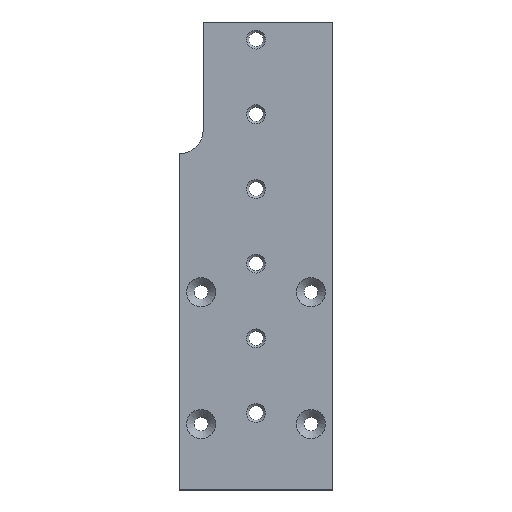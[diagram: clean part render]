
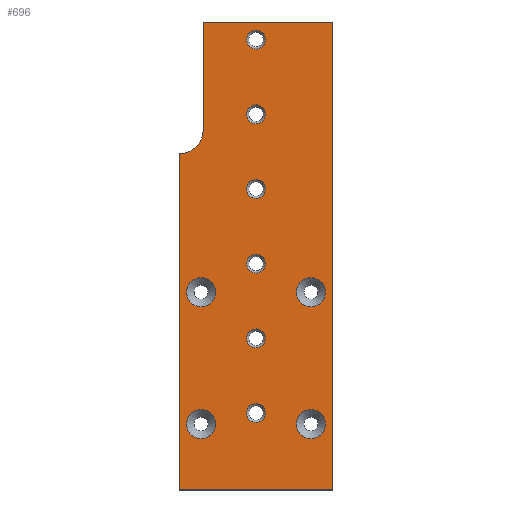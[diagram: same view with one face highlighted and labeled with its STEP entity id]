
A CAD part, top view. The second image highlights one B-rep face of the part: STEP entity #696.
In plain terms, the highlighted planar face has unit normal (0, 0, 1).
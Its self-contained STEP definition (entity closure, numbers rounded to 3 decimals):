
#31=CIRCLE('',#721,5.5);
#43=CIRCLE('',#739,3.3);
#45=CIRCLE('',#743,3.3);
#47=CIRCLE('',#747,3.3);
#49=CIRCLE('',#751,2.15);
#50=CIRCLE('',#752,2.15);
#51=CIRCLE('',#753,2.15);
#52=CIRCLE('',#754,2.15);
#53=CIRCLE('',#755,2.15);
#54=CIRCLE('',#756,2.15);
#55=CIRCLE('',#757,3.3);
#137=ORIENTED_EDGE('',*,*,#219,.T.);
#138=ORIENTED_EDGE('',*,*,#220,.T.);
#139=ORIENTED_EDGE('',*,*,#221,.T.);
#140=ORIENTED_EDGE('',*,*,#222,.T.);
#141=ORIENTED_EDGE('',*,*,#223,.T.);
#142=ORIENTED_EDGE('',*,*,#224,.T.);
#143=ORIENTED_EDGE('',*,*,#225,.F.);
#144=ORIENTED_EDGE('',*,*,#215,.F.);
#145=ORIENTED_EDGE('',*,*,#213,.F.);
#146=ORIENTED_EDGE('',*,*,#217,.F.);
#147=ORIENTED_EDGE('',*,*,#180,.T.);
#148=ORIENTED_EDGE('',*,*,#185,.T.);
#149=ORIENTED_EDGE('',*,*,#189,.T.);
#150=ORIENTED_EDGE('',*,*,#211,.T.);
#151=ORIENTED_EDGE('',*,*,#193,.T.);
#152=ORIENTED_EDGE('',*,*,#197,.F.);
#180=EDGE_CURVE('',#234,#233,#278,.T.);
#185=EDGE_CURVE('',#233,#238,#283,.T.);
#189=EDGE_CURVE('',#238,#241,#287,.T.);
#193=EDGE_CURVE('',#245,#243,#291,.T.);
#197=EDGE_CURVE('',#234,#243,#31,.T.);
#211=EDGE_CURVE('',#241,#245,#297,.T.);
#213=EDGE_CURVE('',#258,#258,#43,.T.);
#215=EDGE_CURVE('',#260,#260,#45,.T.);
#217=EDGE_CURVE('',#262,#262,#47,.T.);
#219=EDGE_CURVE('',#264,#264,#49,.T.);
#220=EDGE_CURVE('',#265,#265,#50,.T.);
#221=EDGE_CURVE('',#266,#266,#51,.T.);
#222=EDGE_CURVE('',#267,#267,#52,.T.);
#223=EDGE_CURVE('',#268,#268,#53,.T.);
#224=EDGE_CURVE('',#269,#269,#54,.T.);
#225=EDGE_CURVE('',#270,#270,#55,.T.);
#233=VERTEX_POINT('',#928);
#234=VERTEX_POINT('',#930);
#238=VERTEX_POINT('',#939);
#241=VERTEX_POINT('',#947);
#243=VERTEX_POINT('',#954);
#245=VERTEX_POINT('',#957);
#258=VERTEX_POINT('',#997);
#260=VERTEX_POINT('',#1003);
#262=VERTEX_POINT('',#1009);
#264=VERTEX_POINT('',#1015);
#265=VERTEX_POINT('',#1017);
#266=VERTEX_POINT('',#1019);
#267=VERTEX_POINT('',#1021);
#268=VERTEX_POINT('',#1023);
#269=VERTEX_POINT('',#1025);
#270=VERTEX_POINT('',#1027);
#278=LINE('',#929,#299);
#283=LINE('',#940,#304);
#287=LINE('',#948,#308);
#291=LINE('',#956,#312);
#297=LINE('',#991,#318);
#299=VECTOR('',#782,1000.);
#304=VECTOR('',#789,1000.);
#308=VECTOR('',#795,1000.);
#312=VECTOR('',#801,1000.);
#318=VECTOR('',#841,1000.);
#352=EDGE_LOOP('',(#137));
#353=EDGE_LOOP('',(#138));
#354=EDGE_LOOP('',(#139));
#355=EDGE_LOOP('',(#140));
#356=EDGE_LOOP('',(#141));
#357=EDGE_LOOP('',(#142));
#358=EDGE_LOOP('',(#143));
#359=EDGE_LOOP('',(#144));
#360=EDGE_LOOP('',(#145));
#361=EDGE_LOOP('',(#146));
#362=EDGE_LOOP('',(#147,#148,#149,#150,#151,#152));
#422=FACE_BOUND('',#352,.T.);
#423=FACE_BOUND('',#353,.T.);
#424=FACE_BOUND('',#354,.T.);
#425=FACE_BOUND('',#355,.T.);
#426=FACE_BOUND('',#356,.T.);
#427=FACE_BOUND('',#357,.T.);
#428=FACE_BOUND('',#358,.T.);
#429=FACE_BOUND('',#359,.T.);
#430=FACE_BOUND('',#360,.T.);
#431=FACE_BOUND('',#361,.T.);
#432=FACE_BOUND('',#362,.T.);
#467=PLANE('',#750);
#696=ADVANCED_FACE('',(#422,#423,#424,#425,#426,#427,#428,#429,#430,#431,
#432),#467,.T.);
#721=AXIS2_PLACEMENT_3D('',#963,#808,#809);
#739=AXIS2_PLACEMENT_3D('',#996,#848,#849);
#743=AXIS2_PLACEMENT_3D('',#1002,#856,#857);
#747=AXIS2_PLACEMENT_3D('',#1008,#864,#865);
#750=AXIS2_PLACEMENT_3D('',#1013,#870,#871);
#751=AXIS2_PLACEMENT_3D('',#1014,#872,#873);
#752=AXIS2_PLACEMENT_3D('',#1016,#874,#875);
#753=AXIS2_PLACEMENT_3D('',#1018,#876,#877);
#754=AXIS2_PLACEMENT_3D('',#1020,#878,#879);
#755=AXIS2_PLACEMENT_3D('',#1022,#880,#881);
#756=AXIS2_PLACEMENT_3D('',#1024,#882,#883);
#757=AXIS2_PLACEMENT_3D('',#1026,#884,#885);
#782=DIRECTION('',(0.,-1.,0.));
#789=DIRECTION('',(1.,0.,0.));
#795=DIRECTION('',(0.,1.,0.));
#801=DIRECTION('',(0.,-1.,0.));
#808=DIRECTION('',(0.,0.,1.));
#809=DIRECTION('',(0.707,-0.707,0.));
#841=DIRECTION('',(-1.,0.,0.));
#848=DIRECTION('',(0.,0.,1.));
#849=DIRECTION('',(-1.,0.,0.));
#856=DIRECTION('',(0.,0.,1.));
#857=DIRECTION('',(-1.,0.,0.));
#864=DIRECTION('',(0.,0.,1.));
#865=DIRECTION('',(-1.,0.,0.));
#870=DIRECTION('',(0.,0.,1.));
#871=DIRECTION('',(1.,0.,0.));
#872=DIRECTION('',(0.,0.,-1.));
#873=DIRECTION('',(0.,-1.,0.));
#874=DIRECTION('',(0.,0.,-1.));
#875=DIRECTION('',(0.,-1.,0.));
#876=DIRECTION('',(0.,0.,-1.));
#877=DIRECTION('',(0.,-1.,0.));
#878=DIRECTION('',(0.,0.,-1.));
#879=DIRECTION('',(0.,-1.,0.));
#880=DIRECTION('',(0.,0.,-1.));
#881=DIRECTION('',(0.,-1.,0.));
#882=DIRECTION('',(0.,0.,-1.));
#883=DIRECTION('',(0.,-1.,0.));
#884=DIRECTION('',(0.,0.,1.));
#885=DIRECTION('',(-1.,0.,0.));
#928=CARTESIAN_POINT('',(512.586,-80.642,4.));
#929=CARTESIAN_POINT('',(512.586,-4.142,4.));
#930=CARTESIAN_POINT('',(512.586,-4.142,4.));
#939=CARTESIAN_POINT('',(547.586,-80.642,4.));
#940=CARTESIAN_POINT('',(512.586,-80.642,4.));
#947=CARTESIAN_POINT('',(547.586,25.858,4.));
#948=CARTESIAN_POINT('',(547.586,-80.642,4.));
#954=CARTESIAN_POINT('',(518.086,1.358,4.));
#956=CARTESIAN_POINT('',(518.086,-4.142,4.));
#957=CARTESIAN_POINT('',(518.086,25.858,4.));
#963=CARTESIAN_POINT('',(512.586,1.358,4.));
#991=CARTESIAN_POINT('',(518.086,25.858,4.));
#996=CARTESIAN_POINT('',(517.586,-35.642,4.));
#997=CARTESIAN_POINT('',(514.286,-35.642,4.));
#1002=CARTESIAN_POINT('',(517.586,-65.642,4.));
#1003=CARTESIAN_POINT('',(514.286,-65.642,4.));
#1008=CARTESIAN_POINT('',(542.586,-65.642,4.));
#1009=CARTESIAN_POINT('',(539.286,-65.642,4.));
#1013=CARTESIAN_POINT('',(530.086,-25.892,4.));
#1014=CARTESIAN_POINT('',(530.086,-63.142,4.));
#1015=CARTESIAN_POINT('',(530.086,-65.292,4.));
#1016=CARTESIAN_POINT('',(530.086,-46.142,4.));
#1017=CARTESIAN_POINT('',(530.086,-48.292,4.));
#1018=CARTESIAN_POINT('',(530.086,-29.142,4.));
#1019=CARTESIAN_POINT('',(530.086,-31.292,4.));
#1020=CARTESIAN_POINT('',(530.086,-12.142,4.));
#1021=CARTESIAN_POINT('',(530.086,-14.292,4.));
#1022=CARTESIAN_POINT('',(530.086,4.858,4.));
#1023=CARTESIAN_POINT('',(530.086,2.708,4.));
#1024=CARTESIAN_POINT('',(530.086,21.858,4.));
#1025=CARTESIAN_POINT('',(530.086,19.708,4.));
#1026=CARTESIAN_POINT('',(542.586,-35.642,4.));
#1027=CARTESIAN_POINT('',(539.286,-35.642,4.));
